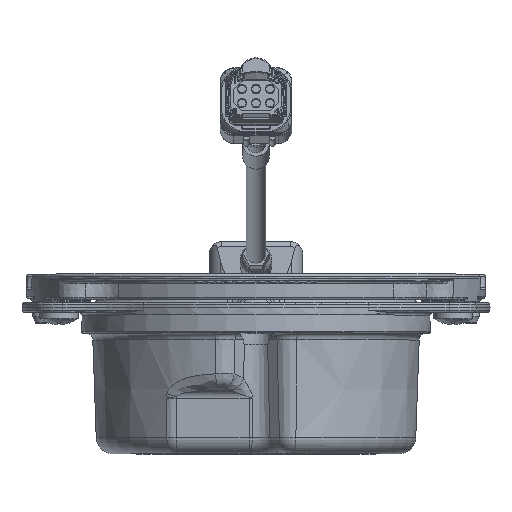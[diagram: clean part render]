
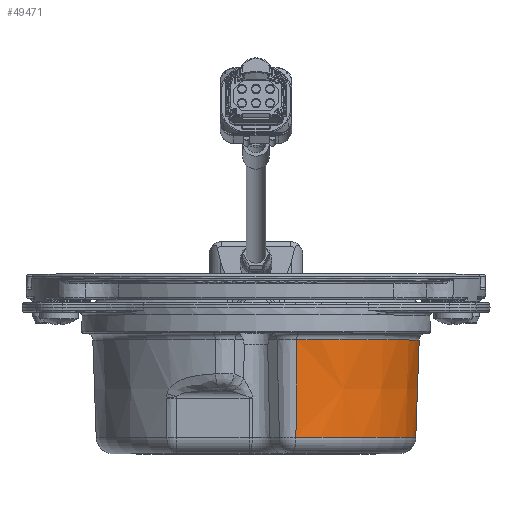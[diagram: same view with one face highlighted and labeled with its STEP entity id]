
A CAD part, top view. The second image highlights one B-rep face of the part: STEP entity #49471.
In plain terms, the highlighted conical face has half-angle 2 degrees and reference radius 29.337 mm.
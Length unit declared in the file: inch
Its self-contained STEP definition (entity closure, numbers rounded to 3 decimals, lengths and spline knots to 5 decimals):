
#14687 = DIRECTION ( 'NONE',  ( 0., 1., 0. ) ) ;
#16723 = DIRECTION ( 'NONE',  ( 0., 1., 0. ) ) ;
#17228 = LINE ( 'NONE', #173258, #43702 ) ;
#32609 = VECTOR ( 'NONE', #143814, 39.37008 ) ;
#36104 = ORIENTED_EDGE ( 'NONE', *, *, #61713, .T. ) ;
#39617 = CARTESIAN_POINT ( 'NONE',  ( 1.10857, -0.22926, -0.30836 ) ) ;
#43702 = VECTOR ( 'NONE', #65755, 39.37008 ) ;
#49471 = ADVANCED_FACE ( 'NONE', ( #73491 ), #109636, .T. ) ;
#54619 = CARTESIAN_POINT ( 'NONE',  ( 1.0855, -0.91519, -0.30194 ) ) ;
#61184 = CARTESIAN_POINT ( 'NONE',  ( 0., -0.22926, 0. ) ) ;
#61713 = EDGE_CURVE ( 'NONE', #65848, #133243, #160992, .T. ) ;
#65755 = DIRECTION ( 'NONE',  ( 0.009, 0.999, 0.034 ) ) ;
#65848 = VERTEX_POINT ( 'NONE', #179226 ) ;
#68930 = EDGE_CURVE ( 'NONE', #133243, #172267, #155286, .T. ) ;
#73491 = FACE_OUTER_BOUND ( 'NONE', #157759, .T. ) ;
#76698 = DIRECTION ( 'NONE',  ( 0., 0., -1. ) ) ;
#79237 = DIRECTION ( 'NONE',  ( 0., 0., 1. ) ) ;
#106831 = CARTESIAN_POINT ( 'NONE',  ( 0., -0.91519, 0. ) ) ;
#109636 = CONICAL_SURFACE ( 'NONE', #155211, 1.155, 0.035 ) ;
#122239 = DIRECTION ( 'NONE',  ( 0., 0., -1. ) ) ;
#124255 = CARTESIAN_POINT ( 'NONE',  ( 0., -0.105, 0. ) ) ;
#128144 = EDGE_CURVE ( 'NONE', #172267, #179536, #154165, .T. ) ;
#128388 = CARTESIAN_POINT ( 'NONE',  ( 1.11275, -0.105, -0.30952 ) ) ;
#133243 = VERTEX_POINT ( 'NONE', #54619 ) ;
#136982 = AXIS2_PLACEMENT_3D ( 'NONE', #61184, #168699, #76698 ) ;
#143415 = EDGE_CURVE ( 'NONE', #65848, #179536, #17228, .T. ) ;
#143814 = DIRECTION ( 'NONE',  ( 0.034, 0.999, -0.009 ) ) ;
#154165 = CIRCLE ( 'NONE', #136982, 1.15066 ) ;
#155211 = AXIS2_PLACEMENT_3D ( 'NONE', #124255, #16723, #79237 ) ;
#155286 = LINE ( 'NONE', #128388, #32609 ) ;
#156051 = ORIENTED_EDGE ( 'NONE', *, *, #128144, .T. ) ;
#157759 = EDGE_LOOP ( 'NONE', ( #185961, #156051, #198800, #36104 ) ) ;
#160992 = CIRCLE ( 'NONE', #187188, 1.12671 ) ;
#167740 = CARTESIAN_POINT ( 'NONE',  ( 0.28724, -0.22926, 1.11423 ) ) ;
#168699 = DIRECTION ( 'NONE',  ( 0., -1., 0. ) ) ;
#172267 = VERTEX_POINT ( 'NONE', #39617 ) ;
#173258 = CARTESIAN_POINT ( 'NONE',  ( 0.28832, -0.105, 1.11843 ) ) ;
#179226 = CARTESIAN_POINT ( 'NONE',  ( 0.28126, -0.91519, 1.09104 ) ) ;
#179536 = VERTEX_POINT ( 'NONE', #167740 ) ;
#185961 = ORIENTED_EDGE ( 'NONE', *, *, #68930, .T. ) ;
#187188 = AXIS2_PLACEMENT_3D ( 'NONE', #106831, #14687, #122239 ) ;
#198800 = ORIENTED_EDGE ( 'NONE', *, *, #143415, .F. ) ;
